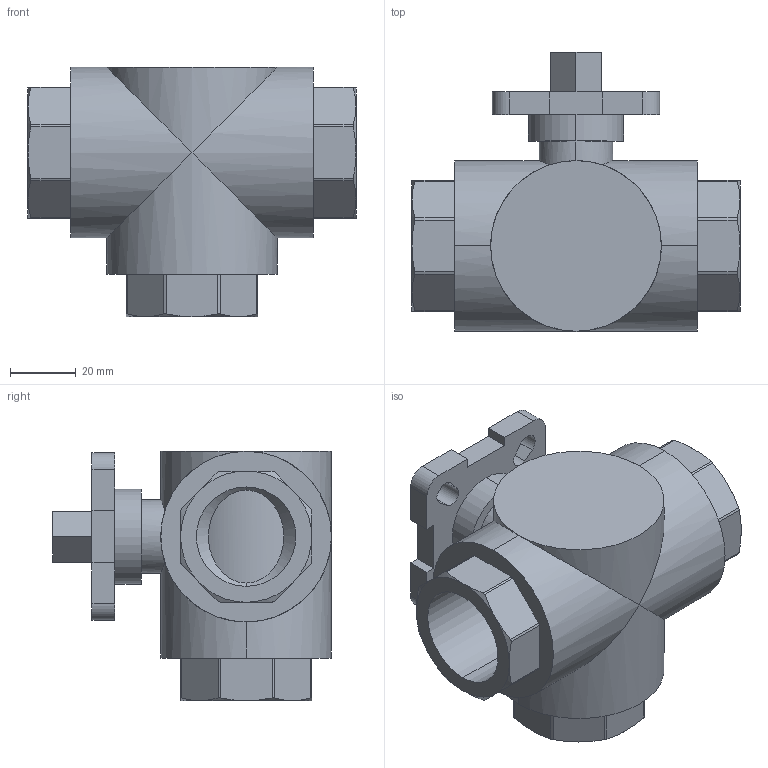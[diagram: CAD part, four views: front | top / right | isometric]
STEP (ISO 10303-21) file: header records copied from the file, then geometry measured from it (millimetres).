
FILE_DESCRIPTION (( 'STEP AP203' ), '1' );
FILE_NAME ('04.622I0250FVPB0.STEP', '2018-10-05T13:21:48', ( '' ), ( '' ), 'SwSTEP 2.0', 'SolidWorks 2014', '' );
FILE_SCHEMA (( 'CONFIG_CONTROL_DESIGN' ));
Length unit declared in the file: millimetre
Products named in the file (1): 04.622I0250FVPB0
Bounding box: 100 x 85 x 76 mm (x, y, z)
Volume: 219955 mm3; surface area: 39530.5 mm2
Topology: 1 solids, 1 shells, 159 faces, 405 edges, 257 vertices
Faces by surface type: plane 67, cylinder 62, cone 30
Entity records: 5406 total; most frequent: CARTESIAN_POINT 1502, ORIENTED_EDGE 810, DIRECTION 787, EDGE_CURVE 405, AXIS2_PLACEMENT_3D 290, VERTEX_POINT 257, VECTOR 207, LINE 207
